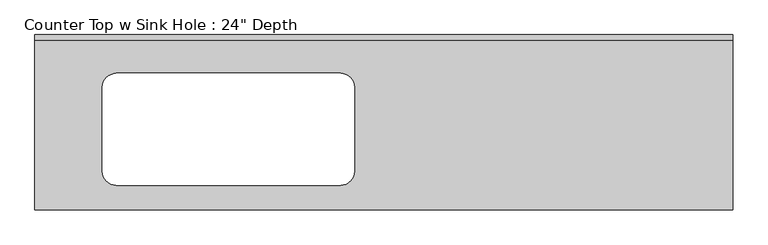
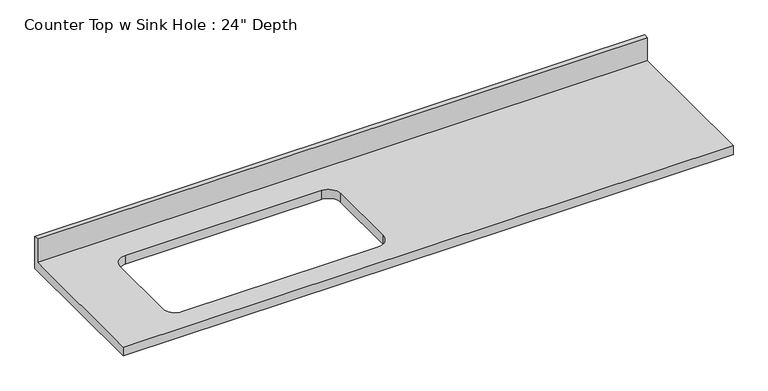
"""IFC4 building model written with IfcOpenShell, lengths in millimetres: furniture geometry."""

from ifc_helpers import new_model, si_unit, frame, origin, place, context, project, spatial, polyline, circle_curve, source, transform, mapped, element, save
from ifc_brep_helpers import plane_surface, revolved_surface, advanced_brep


def furniture_cf9d1cb4(model_context):
    return source(origin(), model_context, "Body", "AdvancedBrep", [
        advanced_brep(
        [(-1200.4622951, -635.0, 914.4), (1330.0127049, -635.0, 914.4), (1330.0127049, -19.05, 914.4), (-1200.4622951, -19.05, 914.4), (-905.1872951, -139.7, 914.4), (-92.3872951, -139.7, 914.4), (-41.5872951, -190.5, 914.4), (-41.5872951, -495.3, 914.4), (-92.3872951, -546.1, 914.4), (-905.1872951, -546.1, 914.4), (-955.9872951, -495.3, 914.4), (-955.9872951, -190.5, 914.4), (1330.0127049, 0.0, 876.3), (1330.0127049, -635.0, 876.3), (-1200.4622951, -635.0, 876.3), (-1200.4622951, 0.0, 876.3), (-92.3872951, -139.7, 876.3), (-905.1872951, -139.7, 876.3), (-955.9872951, -190.5, 876.3), (-955.9872951, -495.3, 876.3), (-905.1872951, -546.1, 876.3), (-92.3872951, -546.1, 876.3), (-41.5872951, -495.3, 876.3), (-41.5872951, -190.5, 876.3), (-1200.4622951, 0.0, 1016.0), (1330.0127049, 0.0, 1016.0), (-1200.4622951, -19.05, 1016.0), (1330.0127049, -19.05, 1016.0)],
        [
            (0, 1),
            (1, 2),
            (2, 3),
            (3, 0),
            (4, 5),
            (5, 6, circle_curve(frame((-92.3872951, -190.5, 914.4), z_axis=(0.0, 0.0, -1.0), x_axis=(1.0, 0.0, 0.0)), 50.8)),
            (6, 7),
            (7, 8, circle_curve(frame((-92.3872951, -495.3, 914.4), z_axis=(0.0, 0.0, -1.0), x_axis=(1.0, 0.0, 0.0)), 50.8)),
            (8, 9),
            (9, 10, circle_curve(frame((-905.1872951, -495.3, 914.4), z_axis=(0.0, 0.0, -1.0), x_axis=(1.0, 0.0, 0.0)), 50.8)),
            (10, 11),
            (11, 4, circle_curve(frame((-905.1872951, -190.5, 914.4), z_axis=(0.0, 0.0, -1.0), x_axis=(1.0, 0.0, 0.0)), 50.8)),
            (12, 13),
            (13, 14),
            (14, 15),
            (15, 12),
            (16, 17),
            (17, 18, circle_curve(frame((-905.1872951, -190.5, 876.3), z_axis=(0.0, 0.0, 1.0), x_axis=(1.0, 0.0, 0.0)), 50.8)),
            (18, 19),
            (19, 20, circle_curve(frame((-905.1872951, -495.3, 876.3), z_axis=(0.0, 0.0, 1.0), x_axis=(1.0, 0.0, 0.0)), 50.8)),
            (20, 21),
            (21, 22, circle_curve(frame((-92.3872951, -495.3, 876.3), z_axis=(0.0, 0.0, 1.0), x_axis=(1.0, 0.0, 0.0)), 50.8)),
            (22, 23),
            (23, 16, circle_curve(frame((-92.3872951, -190.5, 876.3), z_axis=(0.0, 0.0, 1.0), x_axis=(1.0, 0.0, 0.0)), 50.8)),
            (15, 24),
            (24, 25),
            (25, 12),
            (14, 0),
            (3, 26),
            (26, 24),
            (13, 1),
            (25, 27),
            (27, 2),
            (26, 27),
            (4, 17),
            (16, 5),
            (11, 18),
            (10, 19),
            (9, 20),
            (8, 21),
            (7, 22),
            (6, 23),
        ],
        [
            plane_surface(frame((-1200.4622951, 0.0, 914.4), z_axis=(0.0, 0.0, 1.0), x_axis=(-1.0, 0.0, 0.0))),
            plane_surface(frame((-1200.4622951, 0.0, 876.3), z_axis=(0.0, 0.0, -1.0), x_axis=(1.0, 0.0, 0.0))),
            plane_surface(frame((1330.0127049, 0.0, 914.4), z_axis=(0.0, 1.0, 0.0), x_axis=(0.0, 0.0, -1.0))),
            plane_surface(frame((-1200.4622951, 0.0, 914.4), z_axis=(-1.0, 0.0, 0.0), x_axis=(0.0, 0.0, -1.0))),
            plane_surface(frame((-1200.4622951, -635.0, 914.4), z_axis=(0.0, -1.0, 0.0), x_axis=(0.0, 0.0, -1.0))),
            plane_surface(frame((1330.0127049, -635.0, 914.4), z_axis=(1.0, 0.0, 0.0), x_axis=(0.0, 0.0, -1.0))),
            plane_surface(frame((-1200.4622951, 0.0, 1016.0), z_axis=(0.0, 0.0, 1.0), x_axis=(0.0, -1.0, 0.0))),
            plane_surface(frame((-1200.4622951, -19.05, 1016.0), z_axis=(0.0, -1.0, 0.0), x_axis=(0.0, 0.0, -1.0))),
            plane_surface(frame((-92.3872951, -139.7, 914.4), z_axis=(0.0, -1.0, 0.0), x_axis=(0.0, 0.0, -1.0))),
            revolved_surface(polyline([(-854.3872951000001, -190.5, 914.4), (-854.3872951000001, -190.5, 876.3)]), (-905.1872951, -190.5, 876.3), (0.0, 0.0, 1.0)),
            plane_surface(frame((-955.9872951, -190.5, 914.4), z_axis=(1.0, 0.0, 0.0), x_axis=(0.0, 0.0, -1.0))),
            revolved_surface(polyline([(-854.3872951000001, -495.3, 914.4), (-854.3872951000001, -495.3, 876.3)]), (-905.1872951, -495.3, 876.3), (0.0, 0.0, 1.0)),
            plane_surface(frame((-905.1872951, -546.1, 914.4), z_axis=(0.0, 1.0, 0.0), x_axis=(0.0, 0.0, -1.0))),
            revolved_surface(polyline([(-41.587295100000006, -495.3, 914.4), (-41.587295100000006, -495.3, 876.3)]), (-92.3872951, -495.3, 876.3), (0.0, 0.0, 1.0)),
            plane_surface(frame((-41.5872951, -495.3, 914.4), z_axis=(-1.0, 0.0, 0.0), x_axis=(0.0, 0.0, -1.0))),
            revolved_surface(polyline([(-41.587295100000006, -190.5, 914.4), (-41.587295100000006, -190.5, 876.3)]), (-92.3872951, -190.5, 876.3), (0.0, 0.0, 1.0)),
        ],
        [
            (0, [[1, 2, 3, 4], [5, 6, 7, 8, 9, 10, 11, 12]]),
            (1, [[13, 14, 15, 16], [17, 18, 19, 20, 21, 22, 23, 24]]),
            (2, [[-16, 25, 26, 27]]),
            (3, [[-15, 28, -4, 29, 30, -25]]),
            (4, [[-1, -28, -14, 31]]),
            (5, [[-13, -27, 32, 33, -2, -31]]),
            (6, [[-30, 34, -32, -26]]),
            (7, [[-34, -29, -3, -33]]),
            (8, [[35, -17, 36, -5]]),
            (9, [[-35, -12, 37, -18]]),
            (10, [[-37, -11, 38, -19]]),
            (11, [[-38, -10, 39, -20]]),
            (12, [[-39, -9, 40, -21]]),
            (13, [[-40, -8, 41, -22]]),
            (14, [[-41, -7, 42, -23]]),
            (15, [[-36, -24, -42, -6]]),
        ],
    ),
    ])


if __name__ == "__main__":
    model = new_model("IFC4")
    model_context = context("Model", 3, world=origin())
    ifc_project = project(units=[si_unit("LENGTHUNIT", "METRE", prefix="MILLI")], contexts=[model_context])
    site = spatial("IfcSite", under=ifc_project)
    building = spatial("IfcBuilding", under=site)
    placement = place(None, origin())
    furniture_shape = furniture_cf9d1cb4(model_context)
    element("IfcFurniture", 1, ObjectType="Counter Top w Sink Hole : 24\" Depth", at=placement, inside=building, context=model_context, shape_type="MappedRepresentation", body=[
        mapped(furniture_shape, transform((0.0, 0.0, 0.0), x_axis=(1.0, 0.0, 0.0), y_axis=(0.0, 1.0, 0.0), z_axis=(0.0, 0.0, 1.0))),
    ])
    save(model, "model.ifc")
